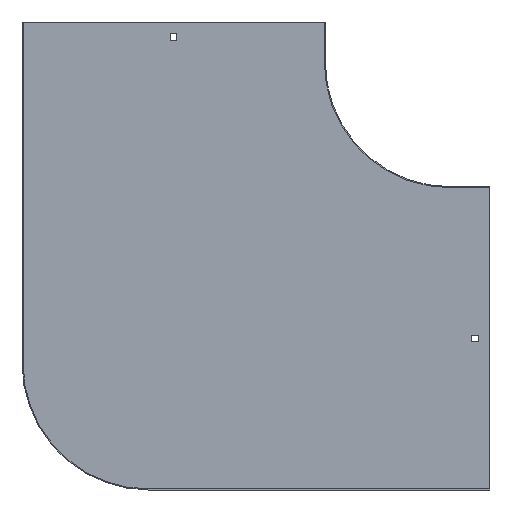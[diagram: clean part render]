
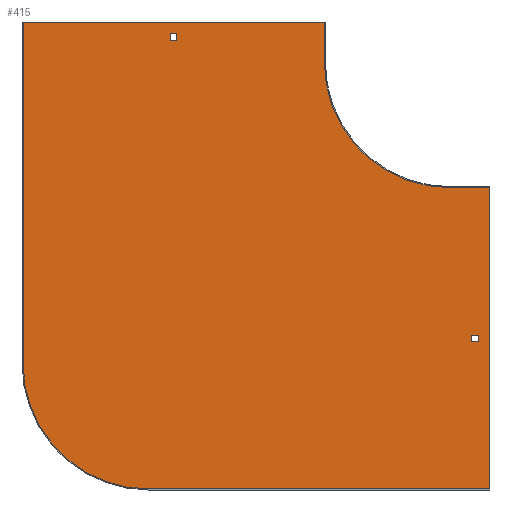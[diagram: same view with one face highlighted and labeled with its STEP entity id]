
A CAD part, front view. The second image highlights one B-rep face of the part: STEP entity #415.
In plain terms, the highlighted planar face has unit normal (0, -1, 0).
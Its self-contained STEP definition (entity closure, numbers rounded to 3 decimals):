
#5 = ORIENTED_EDGE ( 'NONE', *, *, #244, .F. ) ;
#6 = CIRCLE ( 'NONE', #588, 125. ) ;
#12 = CARTESIAN_POINT ( 'NONE',  ( -278., -1., 21.5 ) ) ;
#29 = CARTESIAN_POINT ( 'NONE',  ( 0., -1., 0. ) ) ;
#30 = DIRECTION ( 'NONE',  ( -1., 0., 0. ) ) ;
#31 = VECTOR ( 'NONE', #399, 1000. ) ;
#36 = CARTESIAN_POINT ( 'NONE',  ( -300., -1., -425. ) ) ;
#52 = DIRECTION ( 'NONE',  ( 0., 0., -1. ) ) ;
#53 = DIRECTION ( 'NONE',  ( 1., 0., 0. ) ) ;
#56 = LINE ( 'NONE', #770, #470 ) ;
#83 = CARTESIAN_POINT ( 'NONE',  ( -425., -1., 40. ) ) ;
#92 = VECTOR ( 'NONE', #203, 1000. ) ;
#93 = DIRECTION ( 'NONE',  ( 0., -1., 0. ) ) ;
#96 = VERTEX_POINT ( 'NONE', #429 ) ;
#97 = FACE_OUTER_BOUND ( 'NONE', #388, .T. ) ;
#98 = LINE ( 'NONE', #626, #841 ) ;
#99 = VERTEX_POINT ( 'NONE', #751 ) ;
#105 = EDGE_CURVE ( 'NONE', #99, #566, #98, .T. ) ;
#107 = VECTOR ( 'NONE', #53, 1000. ) ;
#120 = VECTOR ( 'NONE', #303, 1000. ) ;
#122 = CARTESIAN_POINT ( 'NONE',  ( 21.5, -1., -278. ) ) ;
#129 = ORIENTED_EDGE ( 'NONE', *, *, #831, .T. ) ;
#137 = LINE ( 'NONE', #332, #31 ) ;
#142 = VECTOR ( 'NONE', #504, 1000. ) ;
#144 = VERTEX_POINT ( 'NONE', #845 ) ;
#155 = VERTEX_POINT ( 'NONE', #785 ) ;
#179 = EDGE_CURVE ( 'NONE', #223, #863, #189, .T. ) ;
#183 = CARTESIAN_POINT ( 'NONE',  ( 28.5, -1., -278. ) ) ;
#189 = LINE ( 'NONE', #714, #107 ) ;
#203 = DIRECTION ( 'NONE',  ( 0., 0., -1. ) ) ;
#206 = LINE ( 'NONE', #465, #822 ) ;
#211 = LINE ( 'NONE', #471, #92 ) ;
#218 = CARTESIAN_POINT ( 'NONE',  ( -272., -1., 28.5 ) ) ;
#223 = VERTEX_POINT ( 'NONE', #862 ) ;
#233 = ORIENTED_EDGE ( 'NONE', *, *, #726, .F. ) ;
#239 = LINE ( 'NONE', #372, #495 ) ;
#241 = CARTESIAN_POINT ( 'NONE',  ( -125., -1., 40. ) ) ;
#244 = EDGE_CURVE ( 'NONE', #96, #223, #6, .T. ) ;
#245 = DIRECTION ( 'NONE',  ( 0., 1., 0. ) ) ;
#261 = CARTESIAN_POINT ( 'NONE',  ( 0., -1., -272. ) ) ;
#264 = VECTOR ( 'NONE', #438, 1000. ) ;
#277 = VERTEX_POINT ( 'NONE', #523 ) ;
#289 = ORIENTED_EDGE ( 'NONE', *, *, #290, .F. ) ;
#290 = EDGE_CURVE ( 'NONE', #863, #99, #211, .T. ) ;
#300 = LINE ( 'NONE', #434, #264 ) ;
#303 = DIRECTION ( 'NONE',  ( 0., 0., -1. ) ) ;
#313 = CARTESIAN_POINT ( 'NONE',  ( -272., -1., 0. ) ) ;
#332 = CARTESIAN_POINT ( 'NONE',  ( 0., -1., -278. ) ) ;
#333 = CARTESIAN_POINT ( 'NONE',  ( 0., -1., 0. ) ) ;
#345 = ORIENTED_EDGE ( 'NONE', *, *, #824, .F. ) ;
#348 = DIRECTION ( 'NONE',  ( 0., -1., 0. ) ) ;
#363 = VECTOR ( 'NONE', #52, 1000. ) ;
#365 = EDGE_LOOP ( 'NONE', ( #460, #607, #371, #606 ) ) ;
#371 = ORIENTED_EDGE ( 'NONE', *, *, #712, .F. ) ;
#372 = CARTESIAN_POINT ( 'NONE',  ( 0., -1., 28.5 ) ) ;
#388 = EDGE_LOOP ( 'NONE', ( #233, #807, #679, #449, #289, #743, #5, #345 ) ) ;
#399 = DIRECTION ( 'NONE',  ( 1., 0., 0. ) ) ;
#415 = ADVANCED_FACE ( 'NONE', ( #545, #97, #555 ), #829, .T. ) ;
#428 = CIRCLE ( 'NONE', #598, 125. ) ;
#429 = CARTESIAN_POINT ( 'NONE',  ( -125., -1., 0. ) ) ;
#433 = DIRECTION ( 'NONE',  ( 0., 0., 1. ) ) ;
#434 = CARTESIAN_POINT ( 'NONE',  ( -278., -1., 0. ) ) ;
#436 = VERTEX_POINT ( 'NONE', #765 ) ;
#438 = DIRECTION ( 'NONE',  ( 0., 0., 1. ) ) ;
#446 = DIRECTION ( 'NONE',  ( 0., 0., -1. ) ) ;
#447 = CARTESIAN_POINT ( 'NONE',  ( 28.5, -1., 0. ) ) ;
#449 = ORIENTED_EDGE ( 'NONE', *, *, #105, .F. ) ;
#460 = ORIENTED_EDGE ( 'NONE', *, *, #645, .F. ) ;
#464 = ORIENTED_EDGE ( 'NONE', *, *, #548, .T. ) ;
#465 = CARTESIAN_POINT ( 'NONE',  ( -426., -1., 40. ) ) ;
#467 = VERTEX_POINT ( 'NONE', #218 ) ;
#470 = VECTOR ( 'NONE', #433, 1000. ) ;
#471 = CARTESIAN_POINT ( 'NONE',  ( 40., -1., -124. ) ) ;
#493 = VERTEX_POINT ( 'NONE', #183 ) ;
#495 = VECTOR ( 'NONE', #499, 1000. ) ;
#499 = DIRECTION ( 'NONE',  ( 1., 0., 0. ) ) ;
#504 = DIRECTION ( 'NONE',  ( -1., 0., 0. ) ) ;
#509 = LINE ( 'NONE', #844, #142 ) ;
#523 = CARTESIAN_POINT ( 'NONE',  ( 28.5, -1., -272. ) ) ;
#526 = LINE ( 'NONE', #261, #671 ) ;
#538 = VECTOR ( 'NONE', #784, 1000. ) ;
#545 = FACE_BOUND ( 'NONE', #365, .T. ) ;
#548 = EDGE_CURVE ( 'NONE', #144, #467, #239, .T. ) ;
#554 = EDGE_CURVE ( 'NONE', #155, #764, #852, .T. ) ;
#555 = FACE_BOUND ( 'NONE', #592, .T. ) ;
#560 = EDGE_CURVE ( 'NONE', #566, #436, #428, .T. ) ;
#564 = CARTESIAN_POINT ( 'NONE',  ( 40., -1., -125. ) ) ;
#566 = VERTEX_POINT ( 'NONE', #36 ) ;
#582 = EDGE_CURVE ( 'NONE', #436, #744, #56, .T. ) ;
#587 = ORIENTED_EDGE ( 'NONE', *, *, #786, .T. ) ;
#588 = AXIS2_PLACEMENT_3D ( 'NONE', #333, #348, #677 ) ;
#592 = EDGE_LOOP ( 'NONE', ( #464, #129, #803, #587 ) ) ;
#598 = AXIS2_PLACEMENT_3D ( 'NONE', #717, #245, #446 ) ;
#606 = ORIENTED_EDGE ( 'NONE', *, *, #554, .F. ) ;
#607 = ORIENTED_EDGE ( 'NONE', *, *, #763, .F. ) ;
#608 = DIRECTION ( 'NONE',  ( -1., 0., 0. ) ) ;
#626 = CARTESIAN_POINT ( 'NONE',  ( 40., -1., -425. ) ) ;
#643 = LINE ( 'NONE', #447, #538 ) ;
#645 = EDGE_CURVE ( 'NONE', #277, #155, #526, .T. ) ;
#652 = VERTEX_POINT ( 'NONE', #12 ) ;
#669 = CARTESIAN_POINT ( 'NONE',  ( -125., -1., 40. ) ) ;
#671 = VECTOR ( 'NONE', #608, 1000. ) ;
#677 = DIRECTION ( 'NONE',  ( 0., 0., -1. ) ) ;
#679 = ORIENTED_EDGE ( 'NONE', *, *, #560, .F. ) ;
#698 = DIRECTION ( 'NONE',  ( 0., 0., -1. ) ) ;
#708 = LINE ( 'NONE', #241, #837 ) ;
#712 = EDGE_CURVE ( 'NONE', #764, #493, #137, .T. ) ;
#713 = LINE ( 'NONE', #313, #363 ) ;
#714 = CARTESIAN_POINT ( 'NONE',  ( 0., -1., -125. ) ) ;
#715 = VERTEX_POINT ( 'NONE', #669 ) ;
#717 = CARTESIAN_POINT ( 'NONE',  ( -300., -1., -300. ) ) ;
#718 = CARTESIAN_POINT ( 'NONE',  ( -272., -1., 21.5 ) ) ;
#722 = AXIS2_PLACEMENT_3D ( 'NONE', #29, #93, #698 ) ;
#726 = EDGE_CURVE ( 'NONE', #744, #715, #206, .T. ) ;
#741 = DIRECTION ( 'NONE',  ( 1., 0., 0. ) ) ;
#743 = ORIENTED_EDGE ( 'NONE', *, *, #179, .F. ) ;
#744 = VERTEX_POINT ( 'NONE', #83 ) ;
#751 = CARTESIAN_POINT ( 'NONE',  ( 40., -1., -425. ) ) ;
#763 = EDGE_CURVE ( 'NONE', #493, #277, #643, .T. ) ;
#764 = VERTEX_POINT ( 'NONE', #122 ) ;
#765 = CARTESIAN_POINT ( 'NONE',  ( -425., -1., -300. ) ) ;
#767 = VERTEX_POINT ( 'NONE', #718 ) ;
#768 = EDGE_CURVE ( 'NONE', #767, #652, #509, .T. ) ;
#770 = CARTESIAN_POINT ( 'NONE',  ( -425., -1., -300. ) ) ;
#784 = DIRECTION ( 'NONE',  ( 0., 0., 1. ) ) ;
#785 = CARTESIAN_POINT ( 'NONE',  ( 21.5, -1., -272. ) ) ;
#786 = EDGE_CURVE ( 'NONE', #652, #144, #300, .T. ) ;
#803 = ORIENTED_EDGE ( 'NONE', *, *, #768, .T. ) ;
#807 = ORIENTED_EDGE ( 'NONE', *, *, #582, .F. ) ;
#822 = VECTOR ( 'NONE', #741, 1000. ) ;
#824 = EDGE_CURVE ( 'NONE', #715, #96, #708, .T. ) ;
#829 = PLANE ( 'NONE',  #722 ) ;
#831 = EDGE_CURVE ( 'NONE', #467, #767, #713, .T. ) ;
#833 = CARTESIAN_POINT ( 'NONE',  ( 21.5, -1., 0. ) ) ;
#837 = VECTOR ( 'NONE', #853, 1000. ) ;
#841 = VECTOR ( 'NONE', #30, 1000. ) ;
#844 = CARTESIAN_POINT ( 'NONE',  ( 0., -1., 21.5 ) ) ;
#845 = CARTESIAN_POINT ( 'NONE',  ( -278., -1., 28.5 ) ) ;
#852 = LINE ( 'NONE', #833, #120 ) ;
#853 = DIRECTION ( 'NONE',  ( 0., 0., -1. ) ) ;
#862 = CARTESIAN_POINT ( 'NONE',  ( 0., -1., -125. ) ) ;
#863 = VERTEX_POINT ( 'NONE', #564 ) ;
